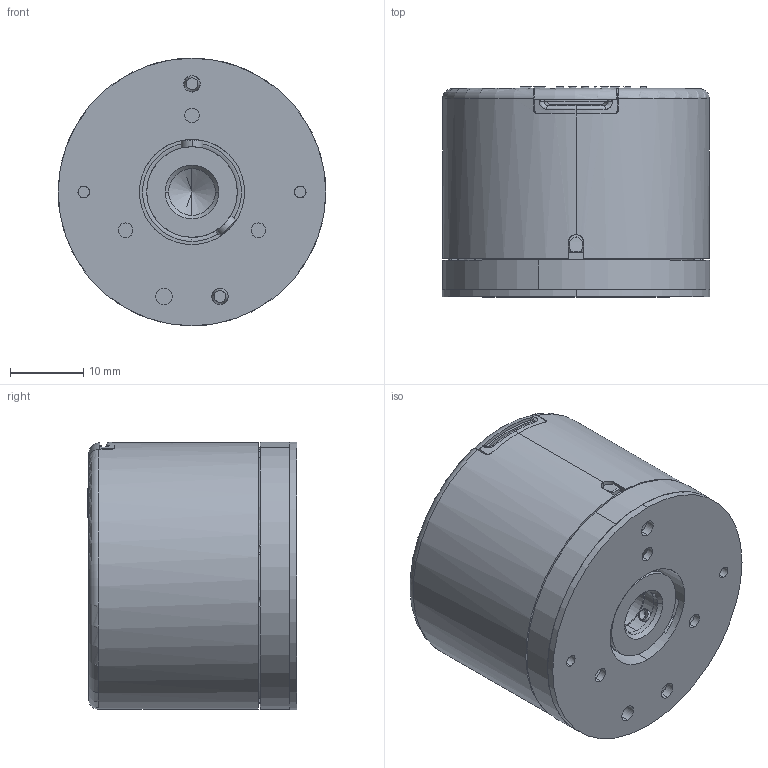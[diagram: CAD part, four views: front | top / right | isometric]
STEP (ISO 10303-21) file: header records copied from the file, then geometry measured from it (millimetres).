
FILE_DESCRIPTION (( 'STEP AP214' ), '1' );
FILE_NAME ('KTD-xxxxx-xxxx-e6rm-jaq.STEP', '2025-03-05T15:39:41', ( '' ), ( '' ), 'SwSTEP 2.0', 'SolidWorks 2024', '' );
FILE_SCHEMA (( 'AUTOMOTIVE_DESIGN' ));
Length unit declared in the file: millimetre
Products named in the file (8): KCD-36-ISO 14581 M2xL_ISO 14581 M2x27; KTD-Stepper kit sealing ring; KTD-Magnet Holder ER_R-6.35; KTD-Bottom Shield Default_KTD-Bottom Shield Default; KTD-xxxxx-xxxx-e6rm-jaq; KCD-36-Gen_4-Plastic clip 2; Eadapter5_10_E6; KTD-Sensor Module-jaq_KTD-Sensor Module-jaq
Assembly tree (8 placements, depth 2):
  KTD-xxxxx-xxxx-e6rm-jaq
    Eadapter5_10_E6
    KCD-36-ISO 14581 M2xL_ISO 14581 M2x27  x2
    KCD-36-Gen_4-Plastic clip 2
    KTD-Stepper kit sealing ring
    KTD-Sensor Module-jaq_KTD-Sensor Module-jaq
    KTD-Bottom Shield Default_KTD-Bottom Shield Default
    KTD-Magnet Holder ER_R-6.35
Bounding box: 36.5 x 28.6 x 36.5 mm (x, y, z)
Volume: 16288.7 mm3; surface area: 24353.7 mm2
Topology: 8 solids, 10 shells, 1764 faces, 4864 edges, 3099 vertices
Faces by surface type: plane 776, cylinder 435, cone 343, torus 101, bspline 100, sphere 9
Entity records: 55917 total; most frequent: CARTESIAN_POINT 14786, ORIENTED_EDGE 9080, DIRECTION 8011, EDGE_CURVE 4540, VERTEX_POINT 2907, AXIS2_PLACEMENT_3D 2742, LINE 2527, VECTOR 2527
